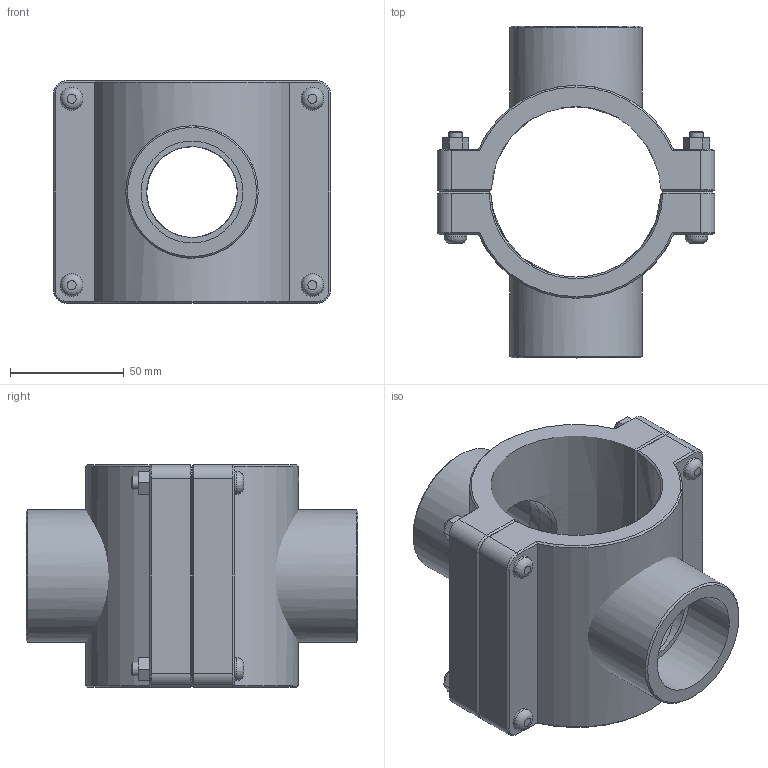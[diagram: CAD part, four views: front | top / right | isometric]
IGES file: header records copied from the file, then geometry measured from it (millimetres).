
Global section: file name: 161760075015_161860075015.ipt; native system: Autodesk Inventor 2015; preprocessor: unknown; author: KIM; date: 20170618.093719; units: millimetre
Bounding box: 122 x 146 x 98 mm (x, y, z)
Volume: 420868.1 mm3; surface area: 101156.9 mm2
Topology: 3 solids, 3 shells, 151 faces, 350 edges, 221 vertices
Faces by surface type: plane 84, cone 26, cylinder 24, revolution 17
Full cylindrical faces by diameter (mm): 6 x4, 10 x8, 58.298 x2
